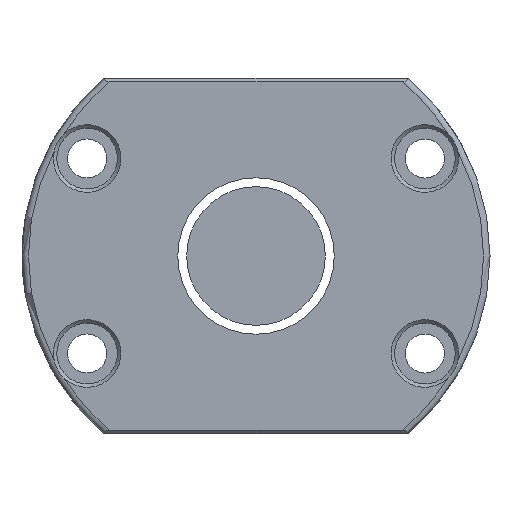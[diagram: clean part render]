
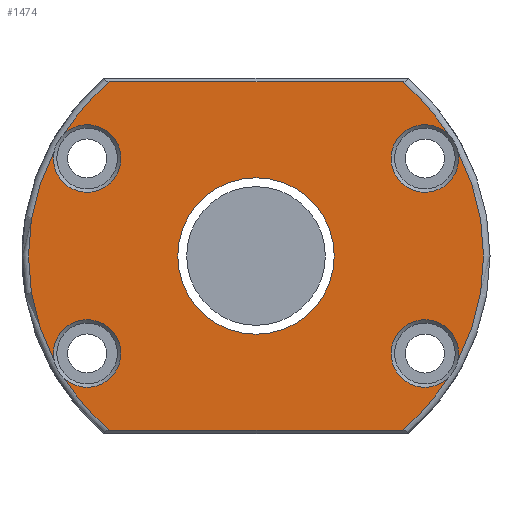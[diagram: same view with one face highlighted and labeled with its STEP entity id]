
A CAD part, left-side view. The second image highlights one B-rep face of the part: STEP entity #1474.
In plain terms, the highlighted planar face has unit normal (-1, 0, 0).
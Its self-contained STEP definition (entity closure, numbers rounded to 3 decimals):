
#47 = ORIENTED_EDGE ( 'NONE', *, *, #3842, .T. ) ;
#48 = ORIENTED_EDGE ( 'NONE', *, *, #2386, .T. ) ;
#107 = EDGE_CURVE ( 'NONE', #980, #1705, #3374, .T. ) ;
#123 = VERTEX_POINT ( 'NONE', #2742 ) ;
#178 = ORIENTED_EDGE ( 'NONE', *, *, #107, .T. ) ;
#191 = DIRECTION ( 'NONE',  ( 0., 0., 1. ) ) ;
#233 = CARTESIAN_POINT ( 'NONE',  ( -96., 44.265, 28.228 ) ) ;
#240 = EDGE_CURVE ( 'NONE', #381, #2566, #2026, .T. ) ;
#255 = ORIENTED_EDGE ( 'NONE', *, *, #1696, .T. ) ;
#285 = CARTESIAN_POINT ( 'NONE',  ( -96., 33.767, 40.2 ) ) ;
#318 = CARTESIAN_POINT ( 'NONE',  ( -96., 54., 0. ) ) ;
#338 = AXIS2_PLACEMENT_3D ( 'NONE', #2431, #3345, #2413 ) ;
#343 = CARTESIAN_POINT ( 'NONE',  ( -96., -33.767, -40.2 ) ) ;
#353 = CARTESIAN_POINT ( 'NONE',  ( -96., -46.579, 24.221 ) ) ;
#381 = VERTEX_POINT ( 'NONE', #1793 ) ;
#385 = EDGE_CURVE ( 'NONE', #2398, #3026, #3308, .T. ) ;
#401 = ORIENTED_EDGE ( 'NONE', *, *, #1149, .T. ) ;
#446 = ORIENTED_EDGE ( 'NONE', *, *, #240, .T. ) ;
#464 = EDGE_CURVE ( 'NONE', #1562, #381, #1633, .T. ) ;
#476 = DIRECTION ( 'NONE',  ( -1., 0., 0. ) ) ;
#524 = VERTEX_POINT ( 'NONE', #1852 ) ;
#582 = DIRECTION ( 'NONE',  ( -1., 0., 0. ) ) ;
#603 = AXIS2_PLACEMENT_3D ( 'NONE', #2448, #876, #2373 ) ;
#621 = CIRCLE ( 'NONE', #3331, 52.5 ) ;
#633 = CARTESIAN_POINT ( 'NONE',  ( -96., 46.579, -24.221 ) ) ;
#659 = PLANE ( 'NONE',  #3254 ) ;
#677 = CARTESIAN_POINT ( 'NONE',  ( -96., 35.143, 40.2 ) ) ;
#761 = CARTESIAN_POINT ( 'NONE',  ( -96., 46.579, 24.221 ) ) ;
#851 = CARTESIAN_POINT ( 'NONE',  ( -96., 38.971, 22.5 ) ) ;
#876 = DIRECTION ( 'NONE',  ( -1., 0., 0. ) ) ;
#881 = VERTEX_POINT ( 'NONE', #285 ) ;
#931 = CARTESIAN_POINT ( 'NONE',  ( -96., -46.579, -24.221 ) ) ;
#949 = CARTESIAN_POINT ( 'NONE',  ( -96., 0., 0. ) ) ;
#960 = ORIENTED_EDGE ( 'NONE', *, *, #3153, .T. ) ;
#980 = VERTEX_POINT ( 'NONE', #343 ) ;
#982 = AXIS2_PLACEMENT_3D ( 'NONE', #1363, #476, #191 ) ;
#995 = CARTESIAN_POINT ( 'NONE',  ( -96., 0., 0. ) ) ;
#1067 = CARTESIAN_POINT ( 'NONE',  ( -96., 0., -18.05 ) ) ;
#1144 = CARTESIAN_POINT ( 'NONE',  ( -96., -38.971, -22.5 ) ) ;
#1149 = EDGE_CURVE ( 'NONE', #3726, #1562, #1237, .T. ) ;
#1162 = EDGE_LOOP ( 'NONE', ( #2380, #178, #960, #401, #1297, #446, #3618, #48, #1594, #255, #2089, #47 ) ) ;
#1181 = DIRECTION ( 'NONE',  ( 1., 0., 0. ) ) ;
#1224 = CARTESIAN_POINT ( 'NONE',  ( -96., -33.767, 40.2 ) ) ;
#1237 = CIRCLE ( 'NONE', #982, 52.5 ) ;
#1260 = FACE_OUTER_BOUND ( 'NONE', #1162, .T. ) ;
#1297 = ORIENTED_EDGE ( 'NONE', *, *, #464, .T. ) ;
#1363 = CARTESIAN_POINT ( 'NONE',  ( -96., 0., 0. ) ) ;
#1471 = CARTESIAN_POINT ( 'NONE',  ( -96., 0., 0. ) ) ;
#1474 = ADVANCED_FACE ( 'NONE', ( #1260, #3425 ), #659, .T. ) ;
#1562 = VERTEX_POINT ( 'NONE', #353 ) ;
#1582 = LINE ( 'NONE', #3777, #3706 ) ;
#1594 = ORIENTED_EDGE ( 'NONE', *, *, #385, .T. ) ;
#1622 = DIRECTION ( 'NONE',  ( -1., 0., 0. ) ) ;
#1633 = CIRCLE ( 'NONE', #1898, 7.8 ) ;
#1652 = VECTOR ( 'NONE', #2262, 1000. ) ;
#1696 = EDGE_CURVE ( 'NONE', #3026, #3788, #3893, .T. ) ;
#1705 = VERTEX_POINT ( 'NONE', #2361 ) ;
#1716 = AXIS2_PLACEMENT_3D ( 'NONE', #3302, #582, #3961 ) ;
#1793 = CARTESIAN_POINT ( 'NONE',  ( -96., -44.265, 28.228 ) ) ;
#1830 = DIRECTION ( 'NONE',  ( 1., 0., 0. ) ) ;
#1852 = CARTESIAN_POINT ( 'NONE',  ( -96., 33.767, -40.2 ) ) ;
#1898 = AXIS2_PLACEMENT_3D ( 'NONE', #2467, #2842, #2176 ) ;
#1900 = DIRECTION ( 'NONE',  ( 1., 0., 0. ) ) ;
#1984 = CIRCLE ( 'NONE', #2623, 7.8 ) ;
#2026 = CIRCLE ( 'NONE', #338, 52.5 ) ;
#2089 = ORIENTED_EDGE ( 'NONE', *, *, #2245, .T. ) ;
#2148 = DIRECTION ( 'NONE',  ( 0., 0., 1. ) ) ;
#2176 = DIRECTION ( 'NONE',  ( 0., 0., 1. ) ) ;
#2215 = DIRECTION ( 'NONE',  ( 0., -1., 0. ) ) ;
#2245 = EDGE_CURVE ( 'NONE', #3788, #123, #3511, .T. ) ;
#2262 = DIRECTION ( 'NONE',  ( 0., 1., 0. ) ) ;
#2356 = DIRECTION ( 'NONE',  ( 0., 0., 1. ) ) ;
#2360 = AXIS2_PLACEMENT_3D ( 'NONE', #995, #1900, #3783 ) ;
#2361 = CARTESIAN_POINT ( 'NONE',  ( -96., -44.265, -28.228 ) ) ;
#2373 = DIRECTION ( 'NONE',  ( 0., 0., 1. ) ) ;
#2380 = ORIENTED_EDGE ( 'NONE', *, *, #3399, .T. ) ;
#2386 = EDGE_CURVE ( 'NONE', #881, #2398, #3258, .T. ) ;
#2397 = CARTESIAN_POINT ( 'NONE',  ( -96., 38.971, -22.5 ) ) ;
#2398 = VERTEX_POINT ( 'NONE', #233 ) ;
#2413 = DIRECTION ( 'NONE',  ( 0., 0., 1. ) ) ;
#2431 = CARTESIAN_POINT ( 'NONE',  ( -96., 0., 0. ) ) ;
#2448 = CARTESIAN_POINT ( 'NONE',  ( -96., 0., 0. ) ) ;
#2467 = CARTESIAN_POINT ( 'NONE',  ( -96., -38.971, 22.5 ) ) ;
#2484 = AXIS2_PLACEMENT_3D ( 'NONE', #2397, #1181, #2356 ) ;
#2497 = DIRECTION ( 'NONE',  ( 0., 0., 1. ) ) ;
#2566 = VERTEX_POINT ( 'NONE', #1224 ) ;
#2608 = VERTEX_POINT ( 'NONE', #1067 ) ;
#2623 = AXIS2_PLACEMENT_3D ( 'NONE', #1144, #3601, #3923 ) ;
#2678 = AXIS2_PLACEMENT_3D ( 'NONE', #1471, #2749, #2148 ) ;
#2742 = CARTESIAN_POINT ( 'NONE',  ( -96., 44.265, -28.228 ) ) ;
#2749 = DIRECTION ( 'NONE',  ( -1., 0., 0. ) ) ;
#2788 = EDGE_CURVE ( 'NONE', #2566, #881, #3200, .T. ) ;
#2842 = DIRECTION ( 'NONE',  ( 1., 0., 0. ) ) ;
#2849 = DIRECTION ( 'NONE',  ( -1., 0., 0. ) ) ;
#2892 = EDGE_LOOP ( 'NONE', ( #2930 ) ) ;
#2930 = ORIENTED_EDGE ( 'NONE', *, *, #3297, .T. ) ;
#3009 = CIRCLE ( 'NONE', #2360, 18.05 ) ;
#3026 = VERTEX_POINT ( 'NONE', #761 ) ;
#3050 = AXIS2_PLACEMENT_3D ( 'NONE', #851, #1830, #3059 ) ;
#3059 = DIRECTION ( 'NONE',  ( 0., 0., 1. ) ) ;
#3153 = EDGE_CURVE ( 'NONE', #1705, #3726, #1984, .T. ) ;
#3200 = LINE ( 'NONE', #677, #1652 ) ;
#3254 = AXIS2_PLACEMENT_3D ( 'NONE', #318, #2849, #2497 ) ;
#3258 = CIRCLE ( 'NONE', #1716, 52.5 ) ;
#3297 = EDGE_CURVE ( 'NONE', #2608, #2608, #3009, .T. ) ;
#3302 = CARTESIAN_POINT ( 'NONE',  ( -96., 0., 0. ) ) ;
#3308 = CIRCLE ( 'NONE', #3050, 7.8 ) ;
#3331 = AXIS2_PLACEMENT_3D ( 'NONE', #949, #1622, #3417 ) ;
#3345 = DIRECTION ( 'NONE',  ( -1., 0., 0. ) ) ;
#3374 = CIRCLE ( 'NONE', #603, 52.5 ) ;
#3399 = EDGE_CURVE ( 'NONE', #524, #980, #1582, .T. ) ;
#3417 = DIRECTION ( 'NONE',  ( 0., 0., 1. ) ) ;
#3425 = FACE_BOUND ( 'NONE', #2892, .T. ) ;
#3511 = CIRCLE ( 'NONE', #2484, 7.8 ) ;
#3601 = DIRECTION ( 'NONE',  ( 1., 0., 0. ) ) ;
#3618 = ORIENTED_EDGE ( 'NONE', *, *, #2788, .T. ) ;
#3706 = VECTOR ( 'NONE', #2215, 1000. ) ;
#3726 = VERTEX_POINT ( 'NONE', #931 ) ;
#3777 = CARTESIAN_POINT ( 'NONE',  ( -96., -35.143, -40.2 ) ) ;
#3783 = DIRECTION ( 'NONE',  ( 0., 0., -1. ) ) ;
#3788 = VERTEX_POINT ( 'NONE', #633 ) ;
#3842 = EDGE_CURVE ( 'NONE', #123, #524, #621, .T. ) ;
#3893 = CIRCLE ( 'NONE', #2678, 52.5 ) ;
#3923 = DIRECTION ( 'NONE',  ( 0., 0., 1. ) ) ;
#3961 = DIRECTION ( 'NONE',  ( 0., 0., 1. ) ) ;
